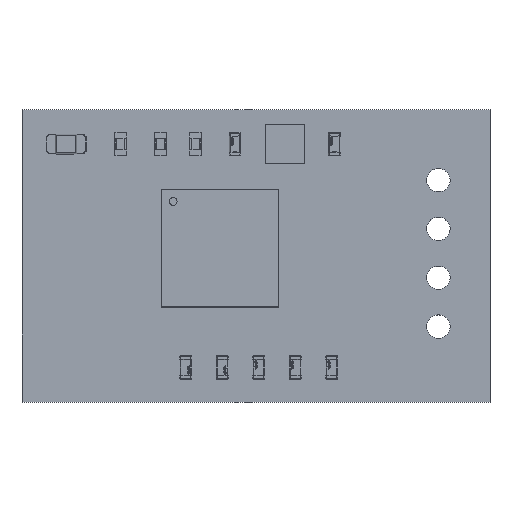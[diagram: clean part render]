
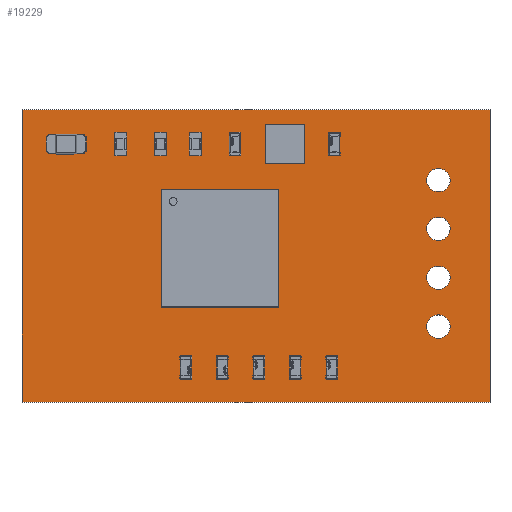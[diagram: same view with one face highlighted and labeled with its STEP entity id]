
A CAD part, top view. The second image highlights one B-rep face of the part: STEP entity #19229.
In plain terms, the highlighted planar face has unit normal (0, 0, 1).
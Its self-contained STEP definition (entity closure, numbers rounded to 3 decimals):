
#372 = AXIS2_PLACEMENT_3D ( 'NONE', #59988, #11785, #99189 ) ;
#1146 = CARTESIAN_POINT ( 'NONE',  ( 11.987, 7.48, 1. ) ) ;
#1369 = EDGE_CURVE ( 'NONE', #65061, #67509, #39516, .T. ) ;
#4004 = ORIENTED_EDGE ( 'NONE', *, *, #115647, .F. ) ;
#4137 = VERTEX_POINT ( 'NONE', #66292 ) ;
#4700 = DIRECTION ( 'NONE',  ( 0., -1., 0. ) ) ;
#7462 = DIRECTION ( 'NONE',  ( 0., 0., 1. ) ) ;
#11203 = DIRECTION ( 'NONE',  ( 1., 0., 0. ) ) ;
#11612 = DIRECTION ( 'NONE',  ( 0., 0., 1. ) ) ;
#11785 = DIRECTION ( 'NONE',  ( 0., 0., 1. ) ) ;
#12059 = CARTESIAN_POINT ( 'NONE',  ( 10.668, 5.685, 1. ) ) ;
#12314 = CIRCLE ( 'NONE', #14345, 0.3 ) ;
#12603 = DIRECTION ( 'NONE',  ( 0., 0., 1. ) ) ;
#14345 = AXIS2_PLACEMENT_3D ( 'NONE', #59829, #37382, #126679 ) ;
#14830 = AXIS2_PLACEMENT_3D ( 'NONE', #12059, #107845, #31355 ) ;
#14983 = CARTESIAN_POINT ( 'NONE',  ( 10.668, 3.185, 1. ) ) ;
#15475 = CARTESIAN_POINT ( 'NONE',  ( 10.668, 4.435, 1. ) ) ;
#16062 = CARTESIAN_POINT ( 'NONE',  ( 10.968, 1.935, 1. ) ) ;
#17163 = LINE ( 'NONE', #124456, #101969 ) ;
#18026 = FACE_OUTER_BOUND ( 'NONE', #99809, .T. ) ;
#18835 = CIRCLE ( 'NONE', #372, 0.3 ) ;
#19229 = ADVANCED_FACE ( 'NONE', ( #18026, #101495, #72549, #30821, #50721 ), #32108, .F. ) ;
#22600 = ORIENTED_EDGE ( 'NONE', *, *, #62943, .F. ) ;
#22871 = CIRCLE ( 'NONE', #65933, 0.3 ) ;
#23079 = EDGE_CURVE ( 'NONE', #23904, #33144, #22871, .T. ) ;
#23744 = EDGE_CURVE ( 'NONE', #57494, #77687, #37487, .T. ) ;
#23904 = VERTEX_POINT ( 'NONE', #93141 ) ;
#24410 = VERTEX_POINT ( 'NONE', #37660 ) ;
#25851 = EDGE_CURVE ( 'NONE', #4137, #100579, #12314, .T. ) ;
#26342 = DIRECTION ( 'NONE',  ( 0., -1., 0. ) ) ;
#27142 = DIRECTION ( 'NONE',  ( 1., 0., 0. ) ) ;
#27153 = AXIS2_PLACEMENT_3D ( 'NONE', #116052, #7462, #36982 ) ;
#27878 = CARTESIAN_POINT ( 'NONE',  ( 11.987, 7.48, 1. ) ) ;
#27955 = EDGE_LOOP ( 'NONE', ( #50568, #22600, #48518 ) ) ;
#30821 = FACE_BOUND ( 'NONE', #50260, .T. ) ;
#31355 = DIRECTION ( 'NONE',  ( 1., 0., 0. ) ) ;
#32069 = CARTESIAN_POINT ( 'NONE',  ( 0.013, 7.48, 1. ) ) ;
#32108 = PLANE ( 'NONE',  #39894 ) ;
#32811 = VECTOR ( 'NONE', #91148, 1000. ) ;
#33144 = VERTEX_POINT ( 'NONE', #122368 ) ;
#35612 = DIRECTION ( 'NONE',  ( 0., -1., 0. ) ) ;
#36219 = CARTESIAN_POINT ( 'NONE',  ( 0.013, 0.006, 1. ) ) ;
#36982 = DIRECTION ( 'NONE',  ( 0., -1., 0. ) ) ;
#37382 = DIRECTION ( 'NONE',  ( 0., 0., 1. ) ) ;
#37487 = LINE ( 'NONE', #27878, #64044 ) ;
#37660 = CARTESIAN_POINT ( 'NONE',  ( 10.368, 4.435, 1. ) ) ;
#39516 = CIRCLE ( 'NONE', #27153, 0.3 ) ;
#39894 = AXIS2_PLACEMENT_3D ( 'NONE', #110496, #82162, #62923 ) ;
#40298 = LINE ( 'NONE', #100064, #45758 ) ;
#41376 = CARTESIAN_POINT ( 'NONE',  ( 10.668, 3.185, 1. ) ) ;
#42264 = ORIENTED_EDGE ( 'NONE', *, *, #64005, .F. ) ;
#42866 = VERTEX_POINT ( 'NONE', #54378 ) ;
#43072 = CARTESIAN_POINT ( 'NONE',  ( 10.968, 5.685, 1. ) ) ;
#43347 = AXIS2_PLACEMENT_3D ( 'NONE', #115170, #12603, #27142 ) ;
#45758 = VECTOR ( 'NONE', #119985, 1000. ) ;
#46952 = ORIENTED_EDGE ( 'NONE', *, *, #71763, .F. ) ;
#47284 = DIRECTION ( 'NONE',  ( 0., 1., 0. ) ) ;
#48518 = ORIENTED_EDGE ( 'NONE', *, *, #1369, .F. ) ;
#48955 = ORIENTED_EDGE ( 'NONE', *, *, #23744, .F. ) ;
#50260 = EDGE_LOOP ( 'NONE', ( #108979, #46952 ) ) ;
#50568 = ORIENTED_EDGE ( 'NONE', *, *, #82026, .F. ) ;
#50721 = FACE_BOUND ( 'NONE', #52525, .T. ) ;
#51422 = DIRECTION ( 'NONE',  ( 1., 0., 0. ) ) ;
#51927 = EDGE_CURVE ( 'NONE', #42866, #57494, #118798, .T. ) ;
#52525 = EDGE_LOOP ( 'NONE', ( #76129, #42264 ) ) ;
#54378 = CARTESIAN_POINT ( 'NONE',  ( 0.013, 7.48, 1. ) ) ;
#57494 = VERTEX_POINT ( 'NONE', #1146 ) ;
#58605 = EDGE_CURVE ( 'NONE', #109893, #72253, #119464, .T. ) ;
#59829 = CARTESIAN_POINT ( 'NONE',  ( 10.668, 1.935, 1. ) ) ;
#59988 = CARTESIAN_POINT ( 'NONE',  ( 10.668, 5.685, 1. ) ) ;
#61519 = DIRECTION ( 'NONE',  ( 0., -1., 0. ) ) ;
#62923 = DIRECTION ( 'NONE',  ( -1., 0., 0. ) ) ;
#62943 = EDGE_CURVE ( 'NONE', #67509, #24410, #72027, .T. ) ;
#64005 = EDGE_CURVE ( 'NONE', #72253, #109893, #18835, .T. ) ;
#64044 = VECTOR ( 'NONE', #35612, 1000. ) ;
#65061 = VERTEX_POINT ( 'NONE', #101131 ) ;
#65933 = AXIS2_PLACEMENT_3D ( 'NONE', #71159, #110378, #61519 ) ;
#66292 = CARTESIAN_POINT ( 'NONE',  ( 10.368, 1.935, 1. ) ) ;
#66538 = EDGE_CURVE ( 'NONE', #77687, #118755, #40298, .T. ) ;
#67509 = VERTEX_POINT ( 'NONE', #124078 ) ;
#69028 = ORIENTED_EDGE ( 'NONE', *, *, #83227, .F. ) ;
#70037 = CIRCLE ( 'NONE', #43347, 0.3 ) ;
#70893 = CARTESIAN_POINT ( 'NONE',  ( 10.968, 3.185, 1. ) ) ;
#71159 = CARTESIAN_POINT ( 'NONE',  ( 10.668, 3.185, 1. ) ) ;
#71763 = EDGE_CURVE ( 'NONE', #100579, #4137, #70037, .T. ) ;
#72027 = CIRCLE ( 'NONE', #115125, 0.3 ) ;
#72253 = VERTEX_POINT ( 'NONE', #108348 ) ;
#72549 = FACE_BOUND ( 'NONE', #115701, .T. ) ;
#76129 = ORIENTED_EDGE ( 'NONE', *, *, #58605, .F. ) ;
#77473 = CIRCLE ( 'NONE', #93909, 0.3 ) ;
#77687 = VERTEX_POINT ( 'NONE', #86735 ) ;
#79193 = ORIENTED_EDGE ( 'NONE', *, *, #51927, .F. ) ;
#82026 = EDGE_CURVE ( 'NONE', #24410, #65061, #106106, .T. ) ;
#82162 = DIRECTION ( 'NONE',  ( 0., 0., -1. ) ) ;
#82887 = CARTESIAN_POINT ( 'NONE',  ( 10.668, 4.435, 1. ) ) ;
#83227 = EDGE_CURVE ( 'NONE', #33144, #119637, #77473, .T. ) ;
#86735 = CARTESIAN_POINT ( 'NONE',  ( 11.987, 0.006, 1. ) ) ;
#91148 = DIRECTION ( 'NONE',  ( 1., 0., 0. ) ) ;
#92711 = DIRECTION ( 'NONE',  ( 0., 0., 1. ) ) ;
#93141 = CARTESIAN_POINT ( 'NONE',  ( 10.368, 3.185, 1. ) ) ;
#93243 = DIRECTION ( 'NONE',  ( 0., 0., 1. ) ) ;
#93909 = AXIS2_PLACEMENT_3D ( 'NONE', #14983, #92711, #4700 ) ;
#95690 = CIRCLE ( 'NONE', #101873, 0.3 ) ;
#99189 = DIRECTION ( 'NONE',  ( 1., 0., 0. ) ) ;
#99809 = EDGE_LOOP ( 'NONE', ( #79193, #4004, #126935, #48955 ) ) ;
#100064 = CARTESIAN_POINT ( 'NONE',  ( 11.987, 0.006, 1. ) ) ;
#100579 = VERTEX_POINT ( 'NONE', #16062 ) ;
#101131 = CARTESIAN_POINT ( 'NONE',  ( 10.668, 4.135, 1. ) ) ;
#101495 = FACE_BOUND ( 'NONE', #27955, .T. ) ;
#101873 = AXIS2_PLACEMENT_3D ( 'NONE', #41376, #93243, #11203 ) ;
#101969 = VECTOR ( 'NONE', #47284, 1000. ) ;
#102725 = ORIENTED_EDGE ( 'NONE', *, *, #23079, .F. ) ;
#106106 = CIRCLE ( 'NONE', #122547, 0.3 ) ;
#107845 = DIRECTION ( 'NONE',  ( 0., 0., 1. ) ) ;
#108348 = CARTESIAN_POINT ( 'NONE',  ( 10.368, 5.685, 1. ) ) ;
#108979 = ORIENTED_EDGE ( 'NONE', *, *, #25851, .F. ) ;
#109893 = VERTEX_POINT ( 'NONE', #43072 ) ;
#110378 = DIRECTION ( 'NONE',  ( 0., 0., 1. ) ) ;
#110496 = CARTESIAN_POINT ( 'NONE',  ( 6., 3.743, 1. ) ) ;
#114372 = DIRECTION ( 'NONE',  ( 0., 0., 1. ) ) ;
#115125 = AXIS2_PLACEMENT_3D ( 'NONE', #82887, #11612, #51422 ) ;
#115170 = CARTESIAN_POINT ( 'NONE',  ( 10.668, 1.935, 1. ) ) ;
#115351 = EDGE_CURVE ( 'NONE', #119637, #23904, #95690, .T. ) ;
#115647 = EDGE_CURVE ( 'NONE', #118755, #42866, #17163, .T. ) ;
#115701 = EDGE_LOOP ( 'NONE', ( #102725, #125956, #69028 ) ) ;
#116052 = CARTESIAN_POINT ( 'NONE',  ( 10.668, 4.435, 1. ) ) ;
#118755 = VERTEX_POINT ( 'NONE', #36219 ) ;
#118798 = LINE ( 'NONE', #32069, #32811 ) ;
#119464 = CIRCLE ( 'NONE', #14830, 0.3 ) ;
#119637 = VERTEX_POINT ( 'NONE', #70893 ) ;
#119985 = DIRECTION ( 'NONE',  ( -1., 0., 0. ) ) ;
#122368 = CARTESIAN_POINT ( 'NONE',  ( 10.668, 2.885, 1. ) ) ;
#122547 = AXIS2_PLACEMENT_3D ( 'NONE', #15475, #114372, #26342 ) ;
#124078 = CARTESIAN_POINT ( 'NONE',  ( 10.968, 4.435, 1. ) ) ;
#124456 = CARTESIAN_POINT ( 'NONE',  ( 0.013, 0.006, 1. ) ) ;
#125956 = ORIENTED_EDGE ( 'NONE', *, *, #115351, .F. ) ;
#126679 = DIRECTION ( 'NONE',  ( -1., 0., 0. ) ) ;
#126935 = ORIENTED_EDGE ( 'NONE', *, *, #66538, .F. ) ;
